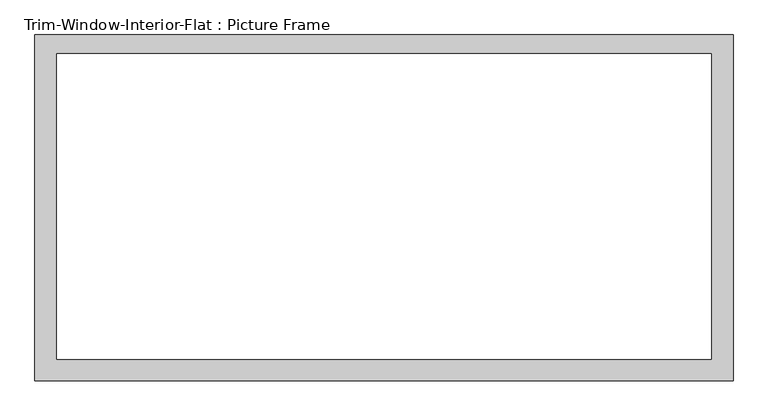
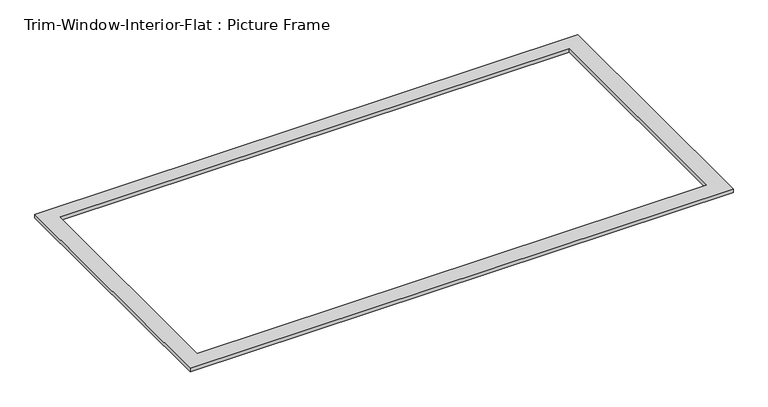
"""IFC4 building model written with IfcOpenShell, lengths in millimetres: proxy geometry, Trim-Window-Interior-Flat : Picture Frame."""

from ifc_helpers import new_model, si_unit, origin, origin_with_axes, place, context, project, spatial, polyline, outline, extrude, source, transform, mapped, element, save


def trim_window_interior_flat_picture_frame_e2cb461c(model_context):
    return source(origin(), model_context, "Body", "SweptSolid", [
        extrude(outline(polyline([(1422.4, 63.5), (1422.4, -1346.2), (-1422.4, -1346.2), (-1422.4, 63.5), (1422.4, 63.5)]), holes=[polyline([(1333.5, -12.7), (-1333.5, -12.7), (-1333.5, -1257.3), (1333.5, -1257.3), (1333.5, -12.7)])]), origin_with_axes(), (0.0, 0.0, 1.0), 19.05),
    ])


if __name__ == "__main__":
    model = new_model("IFC4")
    model_context = context("Model", 3, world=origin())
    ifc_project = project(units=[si_unit("LENGTHUNIT", "METRE", prefix="MILLI")], contexts=[model_context])
    site = spatial("IfcSite", under=ifc_project)
    building = spatial("IfcBuilding", under=site)
    placement = place(None, origin())
    trim_window_interior_flat_picture_frame_shape = trim_window_interior_flat_picture_frame_e2cb461c(model_context)
    element("IfcBuildingElementProxy", 1, Name="Trim-Window-Interior-Flat : Picture Frame", ObjectType="Trim-Window-Interior-Flat : Picture Frame", at=placement, inside=building, context=model_context, shape_type="MappedRepresentation", body=[
        mapped(trim_window_interior_flat_picture_frame_shape, transform((0.0, 0.0, 0.0), x_axis=(1.0, 0.0, 0.0), y_axis=(0.0, 1.0, 0.0), z_axis=(0.0, 0.0, 1.0))),
    ])
    save(model, "model.ifc")
